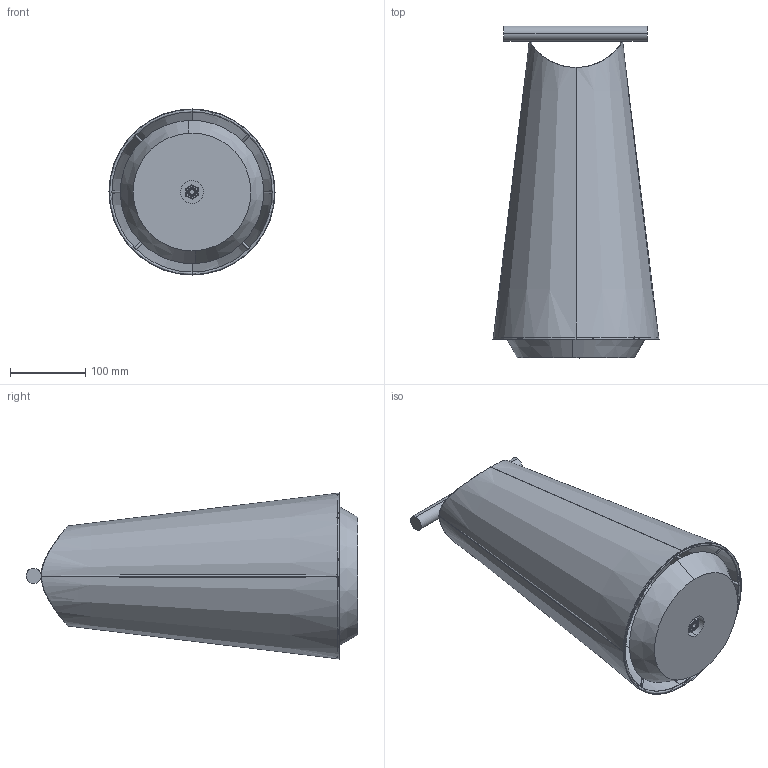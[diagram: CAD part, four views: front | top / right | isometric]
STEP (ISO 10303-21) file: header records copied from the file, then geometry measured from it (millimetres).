
FILE_DESCRIPTION (( 'STEP AP214' ), '1' );
FILE_NAME ('CATAY TABLE.STEP', '2025-07-23T11:52:49', ( '' ), ( '' ), 'SwSTEP 2.0', 'SolidWorks 2016', '' );
FILE_SCHEMA (( 'AUTOMOTIVE_DESIGN' ));
Length unit declared in the file: millimetre
Products named in the file (23): PIEZA INFERIOR CASQUILLO BOMBILLA E27; MANGO LAMPARA CONO MESA 2025; PIEZA SUPERIOR CASQUILLO BOMBILLA E27; ARANDELA CASQUILLO BOMBILLA E27; BOMBILLA E27; TUERCA LAMPARERO M10x1 - 17x6; ROSCA LAMPARARERO PARA CASQUILLO BASE LAMPARA CONO 2025; PANTALLA LAMPARA CONO TABLE; BASE PARA PANTALLA CONO SOBREMESA 2025; CATAY TABLE; ESTRUCTURA VARILLA 3,4MM LAMPARA CONO TABLE GOFI; CASQUILLO CON ARANDELAS ROSCADA PARA BOMBILLA E27
Assembly tree (12 placements, depth 3):
  PIEZA INFERIOR CASQUILLO BOMBILLA E27
  MANGO LAMPARA CONO MESA 2025
  ARANDELA CASQUILLO BOMBILLA E27
  BOMBILLA E27
  PIEZA SUPERIOR CASQUILLO BOMBILLA E27
Bounding box: 220 x 439.8 x 220 mm (x, y, z)
Volume: 999839.4 mm3; surface area: 564470.4 mm2
Topology: 11 solids, 11 shells, 323 faces, 897 edges, 587 vertices
Faces by surface type: cylinder 152, plane 139, torus 22, cone 8, sphere 2
Entity records: 10617 total; most frequent: CARTESIAN_POINT 2454, DIRECTION 1629, ORIENTED_EDGE 1526, EDGE_CURVE 763, AXIS2_PLACEMENT_3D 629, VERTEX_POINT 498, VECTOR 371, LINE 371
